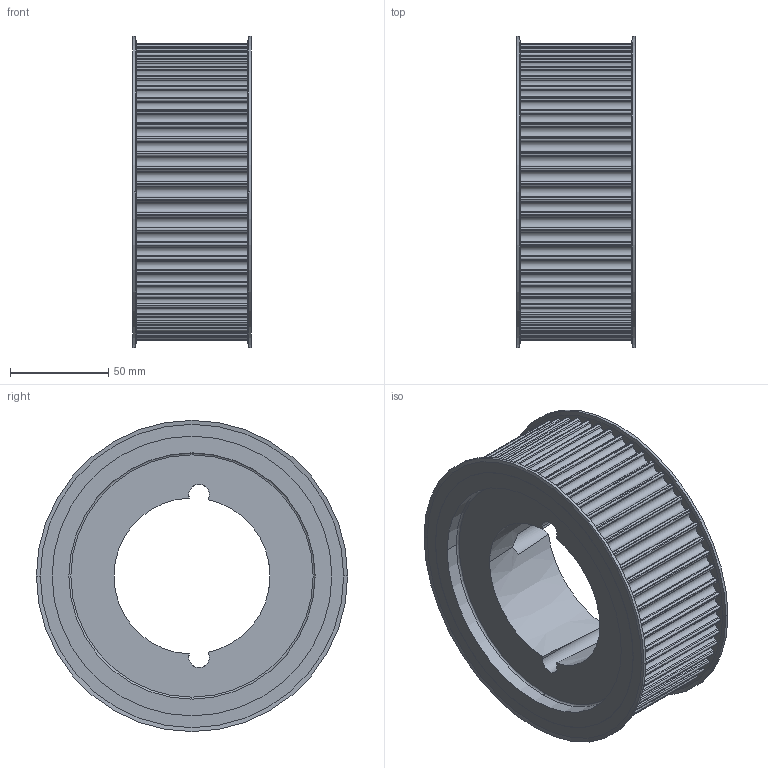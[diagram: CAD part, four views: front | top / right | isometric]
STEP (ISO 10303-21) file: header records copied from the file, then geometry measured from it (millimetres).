
FILE_DESCRIPTION( ( '' ), '1' );
FILE_NAME( 'C:/Users/Stangenbergd/Documents/CAD_Step/1/17477430.stp', '2021-10-19T10:20:50', ( '' ), ( '' ), ' ', ' ', ' ' );
FILE_SCHEMA( ( 'CONFIG_CONTROL_DESIGN' ) );
Length unit declared in the file: millimetre
Products named in the file (1): 1
Bounding box: 60.26 x 158 x 158 mm (x, y, z)
Volume: 598740.4 mm3; surface area: 93019.8 mm2
Topology: 1 solids, 1 shells, 406 faces, 1189 edges, 789 vertices
Faces by surface type: cylinder 260, plane 128, cone 14, torus 4
Entity records: 13873 total; most frequent: DIRECTION 2535, CARTESIAN_POINT 2531, ORIENTED_EDGE 2374, EDGE_CURVE 1187, AXIS2_PLACEMENT_3D 953, VERTEX_POINT 789, LINE 629, VECTOR 629
